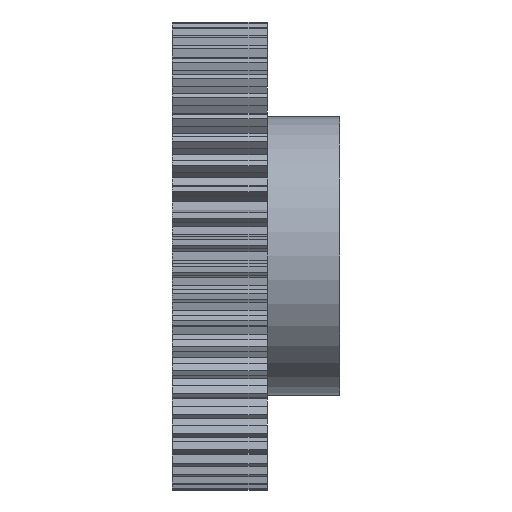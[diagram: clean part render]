
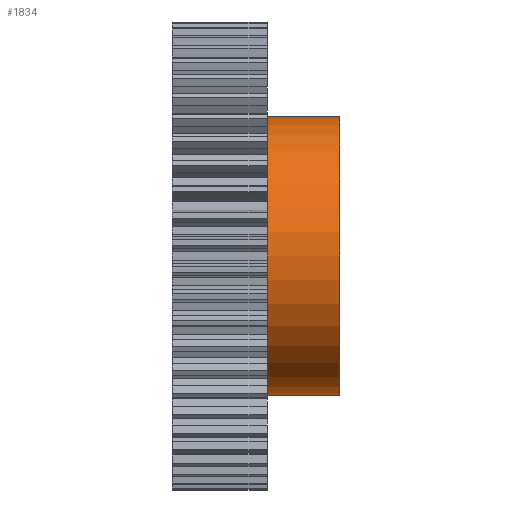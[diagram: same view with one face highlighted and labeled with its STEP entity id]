
A CAD part, front view. The second image highlights one B-rep face of the part: STEP entity #1834.
In plain terms, the highlighted cylindrical face has radius 25 mm (diameter 50 mm), a partial arc.
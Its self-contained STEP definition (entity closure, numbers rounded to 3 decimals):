
#1834 = ADVANCED_FACE ( 'NONE', ( #6357 ), #6352, .T. ) ;
#1836 = ORIENTED_EDGE ( 'NONE', *, *, #8519, .T. ) ;
#1838 = ORIENTED_EDGE ( 'NONE', *, *, #8544, .T. ) ;
#1839 = ORIENTED_EDGE ( 'NONE', *, *, #2056, .T. ) ;
#1841 = ORIENTED_EDGE ( 'NONE', *, *, #2006, .F. ) ;
#1852 = EDGE_LOOP ( 'NONE', ( #1841, #1838, #1839, #1836 ) ) ;
#2006 = EDGE_CURVE ( 'NONE', #2054, #2070, #6682, .T. ) ;
#2013 = VERTEX_POINT ( 'NONE', #6723 ) ;
#2029 = VERTEX_POINT ( 'NONE', #6706 ) ;
#2054 = VERTEX_POINT ( 'NONE', #6790 ) ;
#2056 = EDGE_CURVE ( 'NONE', #2029, #2013, #6771, .T. ) ;
#2070 = VERTEX_POINT ( 'NONE', #6827 ) ;
#5744 = VECTOR ( 'NONE', #6007, 1000. ) ;
#6007 = DIRECTION ( 'NONE',  ( -1., 0., 0. ) ) ;
#6352 = CYLINDRICAL_SURFACE ( 'NONE', #6406, 25. ) ;
#6357 = FACE_OUTER_BOUND ( 'NONE', #1852, .T. ) ;
#6403 = CARTESIAN_POINT ( 'NONE',  ( 8.5, 0., 0. ) ) ;
#6404 = DIRECTION ( 'NONE',  ( 0., 0., 1. ) ) ;
#6406 = AXIS2_PLACEMENT_3D ( 'NONE', #6403, #6410, #6404 ) ;
#6410 = DIRECTION ( 'NONE',  ( -1., 0., 0. ) ) ;
#6682 = LINE ( 'NONE', #6731, #6730 ) ;
#6706 = CARTESIAN_POINT ( 'NONE',  ( 21.5, 0., 25. ) ) ;
#6723 = CARTESIAN_POINT ( 'NONE',  ( 8.5, 0., 25. ) ) ;
#6729 = DIRECTION ( 'NONE',  ( -1., 0., 0. ) ) ;
#6730 = VECTOR ( 'NONE', #6729, 1000. ) ;
#6731 = CARTESIAN_POINT ( 'NONE',  ( 8.5, 0., -25. ) ) ;
#6770 = CARTESIAN_POINT ( 'NONE',  ( 8.5, 0., 25. ) ) ;
#6771 = LINE ( 'NONE', #6770, #5744 ) ;
#6790 = CARTESIAN_POINT ( 'NONE',  ( 21.5, 0., -25. ) ) ;
#6827 = CARTESIAN_POINT ( 'NONE',  ( 8.5, 0., -25. ) ) ;
#8519 = EDGE_CURVE ( 'NONE', #2013, #2070, #10700, .T. ) ;
#8544 = EDGE_CURVE ( 'NONE', #2054, #2029, #10733, .T. ) ;
#10697 = DIRECTION ( 'NONE',  ( 0., 0., 1. ) ) ;
#10698 = DIRECTION ( 'NONE',  ( 1., 0., 0. ) ) ;
#10699 = AXIS2_PLACEMENT_3D ( 'NONE', #10707, #10698, #10697 ) ;
#10700 = CIRCLE ( 'NONE', #10699, 25. ) ;
#10707 = CARTESIAN_POINT ( 'NONE',  ( 8.5, 0., 0. ) ) ;
#10715 = DIRECTION ( 'NONE',  ( 0., 0., 1. ) ) ;
#10716 = DIRECTION ( 'NONE',  ( -1., 0., 0. ) ) ;
#10717 = CARTESIAN_POINT ( 'NONE',  ( 21.5, 0., 0. ) ) ;
#10718 = AXIS2_PLACEMENT_3D ( 'NONE', #10717, #10716, #10715 ) ;
#10733 = CIRCLE ( 'NONE', #10718, 25. ) ;
